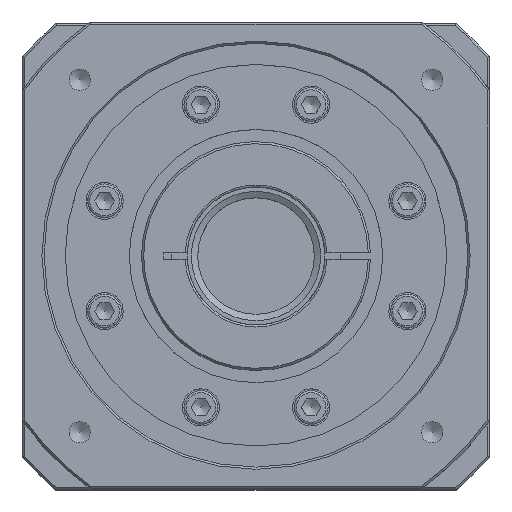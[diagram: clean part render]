
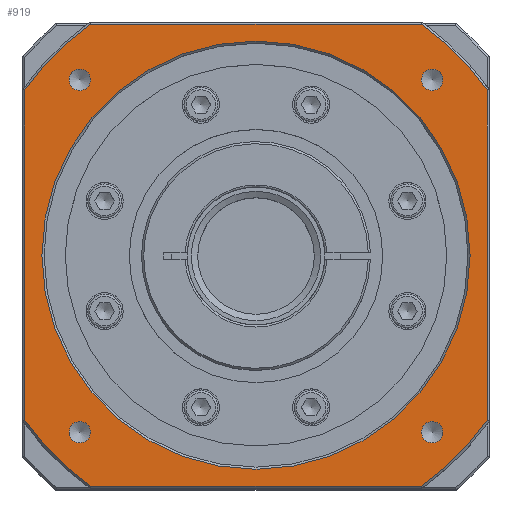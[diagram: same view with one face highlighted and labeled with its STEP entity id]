
A CAD part, top view. The second image highlights one B-rep face of the part: STEP entity #919.
In plain terms, the highlighted planar face has unit normal (0, 0, 1) as drawn and (0, 0, -1) by its records, which use the part's own axes.
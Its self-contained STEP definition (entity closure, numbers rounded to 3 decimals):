
#785=CARTESIAN_POINT('',(-101.,-0.39,-30.5));
#786=VERTEX_POINT('',#785);
#787=CARTESIAN_POINT('',(0.,-0.39,-30.5));
#788=DIRECTION('',(0.0,0.0,-1.0));
#789=DIRECTION('',(1.0,0.0,0.0));
#790=AXIS2_PLACEMENT_3D('',#787,#788,#789);
#791=CIRCLE('',#790,101.0);
#792=EDGE_CURVE('',#786,#786,#791,.T.);
#797=CARTESIAN_POINT('',(0.,-0.39,-30.5));
#798=DIRECTION('',(0.0,0.0,1.0));
#799=DIRECTION('',(1.0,0.0,0.0));
#800=AXIS2_PLACEMENT_3D('',#797,#798,#799);
#801=PLANE('',#800);
#802=CARTESIAN_POINT('',(109.0,-78.332,-30.5));
#803=VERTEX_POINT('',#802);
#804=CARTESIAN_POINT('',(109.,77.552,-30.5));
#805=VERTEX_POINT('',#804);
#806=CARTESIAN_POINT('',(109.,-78.332,-30.5));
#807=DIRECTION('',(0.0,1.0,0.0));
#808=VECTOR('',#807,155.885);
#809=LINE('',#806,#808);
#810=EDGE_CURVE('',#803,#805,#809,.T.);
#811=ORIENTED_EDGE('',*,*,#810,.F.);
#812=CARTESIAN_POINT('',(77.942,-109.39,-30.5));
#813=VERTEX_POINT('',#812);
#814=CARTESIAN_POINT('',(0.,-0.39,-30.5));
#815=DIRECTION('',(0.,0.,1.));
#816=DIRECTION('',(0.815,-0.58,0.));
#817=AXIS2_PLACEMENT_3D('',#814,#815,#816);
#818=CIRCLE('',#817,134.0);
#819=EDGE_CURVE('',#813,#803,#818,.T.);
#820=ORIENTED_EDGE('',*,*,#819,.F.);
#821=CARTESIAN_POINT('',(-77.942,-109.39,-30.5));
#822=VERTEX_POINT('',#821);
#823=CARTESIAN_POINT('',(-77.942,-109.39,-30.5));
#824=DIRECTION('',(1.0,0.0,0.0));
#825=VECTOR('',#824,155.885);
#826=LINE('',#823,#825);
#827=EDGE_CURVE('',#822,#813,#826,.T.);
#828=ORIENTED_EDGE('',*,*,#827,.F.);
#829=CARTESIAN_POINT('',(-109.,-78.332,-30.5));
#830=VERTEX_POINT('',#829);
#831=CARTESIAN_POINT('',(0.,-0.39,-30.5));
#832=DIRECTION('',(0.,0.,1.));
#833=DIRECTION('',(-0.58,-0.815,0.));
#834=AXIS2_PLACEMENT_3D('',#831,#832,#833);
#835=CIRCLE('',#834,134.);
#836=EDGE_CURVE('',#830,#822,#835,.T.);
#837=ORIENTED_EDGE('',*,*,#836,.F.);
#838=CARTESIAN_POINT('',(-109.,77.552,-30.5));
#839=VERTEX_POINT('',#838);
#840=CARTESIAN_POINT('',(-109.,77.552,-30.5));
#841=DIRECTION('',(0.0,-1.0,0.0));
#842=VECTOR('',#841,155.885);
#843=LINE('',#840,#842);
#844=EDGE_CURVE('',#839,#830,#843,.T.);
#845=ORIENTED_EDGE('',*,*,#844,.F.);
#846=CARTESIAN_POINT('',(-77.942,108.61,-30.5));
#847=VERTEX_POINT('',#846);
#848=CARTESIAN_POINT('',(0.,-0.39,-30.5));
#849=DIRECTION('',(0.,0.,1.));
#850=DIRECTION('',(-0.815,0.58,0.));
#851=AXIS2_PLACEMENT_3D('',#848,#849,#850);
#852=CIRCLE('',#851,134.0);
#853=EDGE_CURVE('',#847,#839,#852,.T.);
#854=ORIENTED_EDGE('',*,*,#853,.F.);
#855=CARTESIAN_POINT('',(77.942,108.61,-30.5));
#856=VERTEX_POINT('',#855);
#857=CARTESIAN_POINT('',(77.942,108.61,-30.5));
#858=DIRECTION('',(-1.0,0.0,0.0));
#859=VECTOR('',#858,155.885);
#860=LINE('',#857,#859);
#861=EDGE_CURVE('',#856,#847,#860,.T.);
#862=ORIENTED_EDGE('',*,*,#861,.F.);
#863=CARTESIAN_POINT('',(0.,-0.39,-30.5));
#864=DIRECTION('',(0.,0.,1.));
#865=DIRECTION('',(0.58,0.815,0.));
#866=AXIS2_PLACEMENT_3D('',#863,#864,#865);
#867=CIRCLE('',#866,134.0);
#868=EDGE_CURVE('',#805,#856,#867,.T.);
#869=ORIENTED_EDGE('',*,*,#868,.F.);
#870=EDGE_LOOP('',(#811,#820,#828,#837,#845,#854,#862,#869));
#871=FACE_OUTER_BOUND('',#870,.T.);
#872=CARTESIAN_POINT('',(83.085,-78.032,-30.5));
#873=VERTEX_POINT('',#872);
#874=CARTESIAN_POINT('',(83.085,-83.085,-30.5));
#875=DIRECTION('',(0.0,0.0,1.0));
#876=DIRECTION('',(0.0,1.0,0.0));
#877=AXIS2_PLACEMENT_3D('',#874,#875,#876);
#878=CIRCLE('',#877,5.053);
#879=EDGE_CURVE('',#873,#873,#878,.T.);
#880=ORIENTED_EDGE('',*,*,#879,.T.);
#881=EDGE_LOOP('',(#880));
#882=FACE_BOUND('',#881,.T.);
#883=CARTESIAN_POINT('',(-78.032,-83.085,-30.5));
#884=VERTEX_POINT('',#883);
#885=CARTESIAN_POINT('',(-83.085,-83.085,-30.5));
#886=DIRECTION('',(0.0,0.0,1.0));
#887=DIRECTION('',(1.0,0.0,0.0));
#888=AXIS2_PLACEMENT_3D('',#885,#886,#887);
#889=CIRCLE('',#888,5.053);
#890=EDGE_CURVE('',#884,#884,#889,.T.);
#891=ORIENTED_EDGE('',*,*,#890,.T.);
#892=EDGE_LOOP('',(#891));
#893=FACE_BOUND('',#892,.T.);
#894=CARTESIAN_POINT('',(-83.085,78.032,-30.5));
#895=VERTEX_POINT('',#894);
#896=CARTESIAN_POINT('',(-83.085,83.085,-30.5));
#897=DIRECTION('',(0.0,0.0,1.0));
#898=DIRECTION('',(0.0,-1.0,0.0));
#899=AXIS2_PLACEMENT_3D('',#896,#897,#898);
#900=CIRCLE('',#899,5.053);
#901=EDGE_CURVE('',#895,#895,#900,.T.);
#902=ORIENTED_EDGE('',*,*,#901,.T.);
#903=EDGE_LOOP('',(#902));
#904=FACE_BOUND('',#903,.T.);
#905=CARTESIAN_POINT('',(78.032,83.085,-30.5));
#906=VERTEX_POINT('',#905);
#907=CARTESIAN_POINT('',(83.085,83.085,-30.5));
#908=DIRECTION('',(0.0,0.0,1.0));
#909=DIRECTION('',(-1.0,0.0,0.0));
#910=AXIS2_PLACEMENT_3D('',#907,#908,#909);
#911=CIRCLE('',#910,5.053);
#912=EDGE_CURVE('',#906,#906,#911,.T.);
#913=ORIENTED_EDGE('',*,*,#912,.T.);
#914=EDGE_LOOP('',(#913));
#915=FACE_BOUND('',#914,.T.);
#916=ORIENTED_EDGE('',*,*,#792,.F.);
#917=EDGE_LOOP('',(#916));
#918=FACE_BOUND('',#917,.T.);
#919=ADVANCED_FACE('',(#871,#882,#893,#904,#915,#918),#801,.F.);
